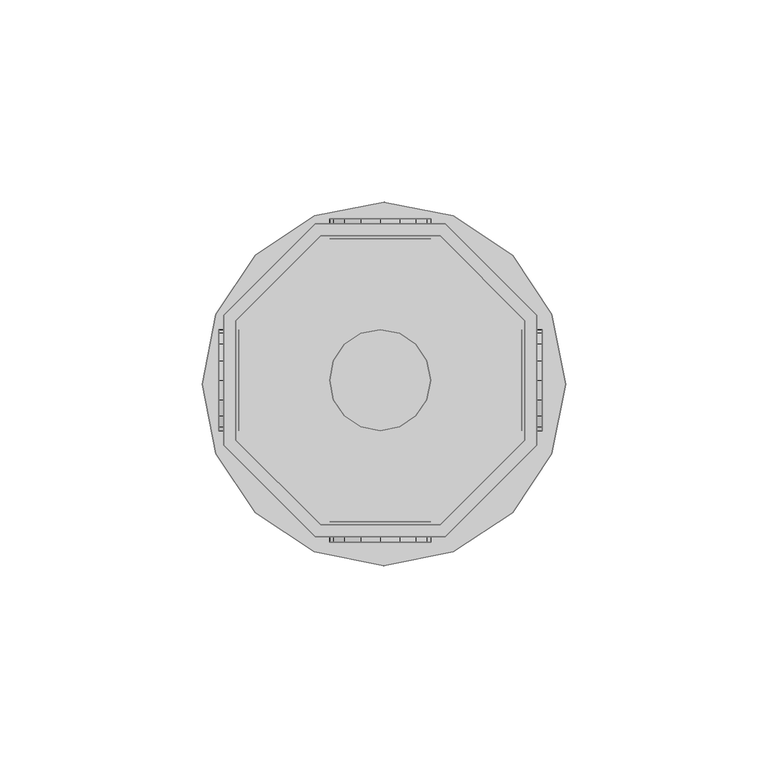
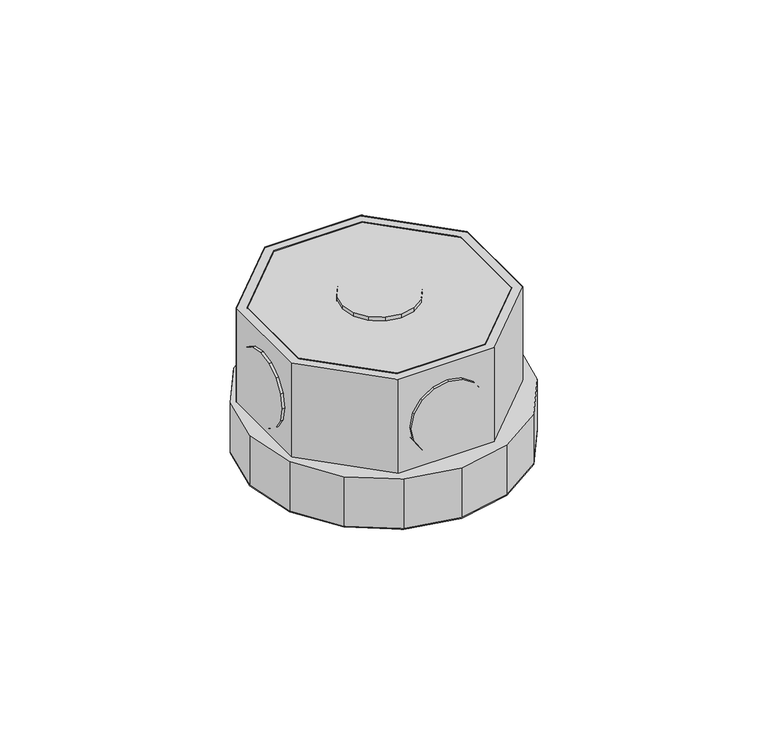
"""IFC4 building model written with IfcOpenShell, lengths in millimetres: light fixture geometry,  213200 :  213200."""

import ifcopenshell
import ifcopenshell.guid

model = None  # the IFC model being written
_history = None  # IfcOwnerHistory: only IFC2X3 demands one
_inside = {}  # id of a spatial element -> (the spatial element, [elements in it])
_under = {}  # id of a project, library or spatial element -> (it, [spatial elements below it])
_declared = {}  # id of a project -> (the project, [libraries it declares])
_typed = {}  # id of a type object -> (the type object, [elements of that type])
_made_of = {}  # id of a material, layer set ... -> (it, [elements and type objects made of it])


def new_model(schema):
    """Start an empty IFC model of exactly this schema.

    Asked for "IFC4X3", IfcOpenShell would pick the latest addendum, in which some entities
    have other attributes; the version numbers below select the first issue.
    IFC2X3 requires an IfcOwnerHistory on every rooted entity: one is made here for all.
    """
    global model, _history
    if schema == "IFC4X3":
        model = ifcopenshell.file(schema_version=(4, 3, 0, 0))
    else:
        model = ifcopenshell.file(schema=schema)
    _inside.clear()
    _under.clear()
    _declared.clear()
    _typed.clear()
    _made_of.clear()
    _history = None
    if model.schema == "IFC2X3":
        org = make("IfcOrganization", Name="unknown")
        user = make(
            "IfcPersonAndOrganization",
            ThePerson=make("IfcPerson", FamilyName="unknown"),
            TheOrganization=org,
        )
        app = make(
            "IfcApplication",
            ApplicationDeveloper=org,
            Version="unknown",
            ApplicationFullName="unknown",
            ApplicationIdentifier="unknown",
        )
        _history = make(
            "IfcOwnerHistory",
            OwningUser=user,
            OwningApplication=app,
            ChangeAction="ADDED",
            CreationDate=0,
        )
    return model


def make(cls, **values):
    """One entity of the class cls with the attributes given. An attribute that is None is left unset."""
    return model.create_entity(
        cls, **{name: value for name, value in values.items() if value is not None}
    )


def rooted(cls, **values):
    """An entity with a GlobalId (a new one), such as an element, a storey or a relation."""
    return make(cls, GlobalId=ifcopenshell.guid.new(), OwnerHistory=_history, **values)


def si_unit(unit_type, name, prefix=None):
    """IfcSIUnit, for example si_unit("LENGTHUNIT", "METRE", prefix="MILLI")."""
    return make("IfcSIUnit", UnitType=unit_type, Prefix=prefix, Name=name)


def assignment(units):
    """IfcUnitAssignment: the units of a project."""
    return None if units is None else make("IfcUnitAssignment", Units=units)


def point(xyz):
    """IfcCartesianPoint."""
    return None if xyz is None else make("IfcCartesianPoint", Coordinates=xyz)


def direction(xyz):
    """IfcDirection."""
    return None if xyz is None else make("IfcDirection", DirectionRatios=xyz)


def frame(location, z_axis=None, x_axis=None):
    """IfcAxis2Placement3D, a coordinate frame: its origin and axes. An axis left out is left unset."""
    return make(
        "IfcAxis2Placement3D",
        Location=point(location),
        Axis=direction(z_axis),
        RefDirection=direction(x_axis),
    )


def origin():
    """The frame at (0, 0, 0) with its axes left unset."""
    return frame((0.0, 0.0, 0.0))


def place(relative_to, where):
    """IfcLocalPlacement: puts the frame where relative to a parent placement (None: the world)."""
    return make(
        "IfcLocalPlacement", PlacementRelTo=relative_to, RelativePlacement=where
    )


def context(
    kind, dimensions, precision=None, world=None, true_north=None, identifier=None
):
    """IfcGeometricRepresentationContext, for example the 3D "Model" context."""
    return make(
        "IfcGeometricRepresentationContext",
        ContextIdentifier=identifier,
        ContextType=kind,
        CoordinateSpaceDimension=dimensions,
        Precision=precision,
        WorldCoordinateSystem=world,
        TrueNorth=true_north,
    )


def project(units=None, contexts=None):
    """IfcProject with its units and contexts."""
    return rooted(
        "IfcProject",
        Name="project",
        RepresentationContexts=contexts,
        UnitsInContext=assignment(units),
    )


def spatial(cls, under=None, at=None, **own):
    """A site, building, storey or space (cls), placed at a placement, below another one or the project."""
    s = rooted(cls, ObjectPlacement=at, **own)
    if under is not None:
        _under.setdefault(under.id(), (under, []))[1].append(s)
    return s


def point_list(points):
    """IfcCartesianPointList2D or 3D."""
    cls = (
        "IfcCartesianPointList2D" if len(points[0]) == 2 else "IfcCartesianPointList3D"
    )
    return make(cls, CoordList=points)


def triangles(points, corners, closed=None, point_numbers=None):
    """IfcTriangulatedFaceSet: each triangle names its three corners, points numbered from 1."""
    return make(
        "IfcTriangulatedFaceSet",
        Coordinates=point_list(points),
        Closed=closed,
        CoordIndex=corners,
        PnIndex=point_numbers,
    )


def shape(context_of_items, identifier, shape_type, items):
    """IfcShapeRepresentation: the items that make up one representation, for example the "Body"."""
    return make(
        "IfcShapeRepresentation",
        ContextOfItems=context_of_items,
        RepresentationIdentifier=identifier,
        RepresentationType=shape_type,
        Items=items,
    )


def source(mapping_origin, context_of_items, identifier, shape_type, items):
    """IfcRepresentationMap: a shape defined once, which mapped items show again and again."""
    return make(
        "IfcRepresentationMap",
        MappingOrigin=mapping_origin,
        MappedRepresentation=shape(context_of_items, identifier, shape_type, items),
    )


def transform(
    local_origin,
    x_axis=None,
    y_axis=None,
    z_axis=None,
    scale=None,
    scale2=None,
    scale3=None,
    uniform=True,
):
    """IfcCartesianTransformationOperator3D, or its non-uniform kind. x_axis, y_axis, z_axis: its Axis1, 2, 3."""
    if uniform:
        return make(
            "IfcCartesianTransformationOperator3D",
            Axis1=direction(x_axis),
            Axis2=direction(y_axis),
            LocalOrigin=point(local_origin),
            Scale=scale,
            Axis3=direction(z_axis),
        )
    return make(
        "IfcCartesianTransformationOperator3DnonUniform",
        Axis1=direction(x_axis),
        Axis2=direction(y_axis),
        LocalOrigin=point(local_origin),
        Scale=scale,
        Axis3=direction(z_axis),
        Scale2=scale2,
        Scale3=scale3,
    )


def mapped(mapping_source, mapping_target):
    """IfcMappedItem: shows the shape of a source again, moved by a transform."""
    return make(
        "IfcMappedItem", MappingSource=mapping_source, MappingTarget=mapping_target
    )


def made_of(thing, what):
    """Note that an element or type object is made of a material, layer set ...; save() writes the relation."""
    if what is not None:
        _made_of.setdefault(what.id(), (what, []))[1].append(thing)
    return thing


def element(
    cls,
    number,
    at=None,
    inside=None,
    cuts=None,
    type_object=None,
    material=None,
    context=None,
    identifier="Body",
    shape_type=None,
    held_by="IfcProductDefinitionShape",
    body=None,
    shapes=None,
    **own,
):
    """One element of the class cls, such as IfcWall. Its Tag is "e" and its number.

    at: its placement. inside: the storey or other place that contains it. cuts: it is an
    opening in that element (IfcRelVoidsElement). A single representation is given by context,
    identifier, shape_type and body (its items); several are given by shapes. held_by: the class
    of the entity that holds the representations. save() writes the other relations.
    """
    e = rooted(cls, Tag="e%d" % number, ObjectPlacement=at, **own)
    if body is not None:
        shapes = [shape(context, identifier, shape_type, body)]
    if shapes is not None:
        e.Representation = make(held_by, Representations=shapes)
    if inside is not None:
        _inside.setdefault(inside.id(), (inside, []))[1].append(e)
    if cuts is not None:
        rooted(
            "IfcRelVoidsElement", RelatingBuildingElement=cuts, RelatedOpeningElement=e
        )
    if type_object is not None:
        _typed.setdefault(type_object.id(), (type_object, []))[1].append(e)
    return made_of(e, material)


def aggregate(whole, parts):
    """IfcRelAggregates: a whole, such as a stair, and the parts it consists of."""
    return rooted("IfcRelAggregates", RelatingObject=whole, RelatedObjects=parts)


def save(model, path):
    """Write the relations noted so far, then the file.

    IfcRelAggregates (storeys below a building ...), IfcRelContainedInSpatialStructure (elements
    in a storey), IfcRelDefinesByType, IfcRelAssociatesMaterial and IfcRelDeclares: one each for
    every whole, place, type object, material and project.
    """
    for whole, parts in _under.values():
        aggregate(whole, parts)
    for where, things in _inside.values():
        rooted(
            "IfcRelContainedInSpatialStructure",
            RelatedElements=things,
            RelatingStructure=where,
        )
    for kind, things in _typed.values():
        rooted("IfcRelDefinesByType", RelatedObjects=things, RelatingType=kind)
    for what, things in _made_of.values():
        rooted("IfcRelAssociatesMaterial", RelatedObjects=things, RelatingMaterial=what)
    for by, libraries in _declared.values():
        rooted("IfcRelDeclares", RelatingContext=by, RelatedDefinitions=libraries)
    model.write(path)


def light_fixture_d457a72d(model_context):
    return source(origin(), model_context, "Body", "Tessellation", [
        triangles([(24957.4998779, 16550.5002411, 2924.5999741), (24927.8993591, 16550.5002411, 2975.400071), (24927.8993591, 16550.5002411, 2924.5999741), (24957.4998779, 16550.5002411, 2975.400071), (24958.6998047, 16476.0001373, 2924.5999741), (24926.5994385, 16476.0001373, 2975.400071), (24926.5994385, 16476.0001373, 2924.5999741), (24958.6998047, 16476.0001373, 2975.400071), (24906.9006409, 16529.5003601, 2975.400071), (24906.9006409, 16529.5003601, 2924.5999741), (24981.4007446, 16498.6999146, 2924.5999741), (24981.4007446, 16498.6999146, 2975.400071), (24906.9006409, 16499.8998413, 2975.400071), (24906.9006409, 16499.8998413, 2924.5999741), (24981.4007446, 16530.8002808, 2924.5999741), (24981.4007446, 16530.8002808, 2975.400071), (24927.8993591, 16478.9999542, 2975.400071), (24927.8993591, 16478.9999542, 2924.5999741), (24958.6998047, 16553.500058, 2924.5999741), (24958.6998047, 16553.500058, 2975.400071), (24957.4998779, 16478.9999542, 2924.5999741), (24957.4998779, 16478.9999542, 2975.400071), (24926.5994385, 16553.500058, 2975.400071), (24926.5994385, 16553.500058, 2924.5999741), (24978.4009277, 16499.8998413, 2924.5999741), (24978.4009277, 16499.8998413, 2975.400071), (24903.900824, 16530.8002808, 2975.400071), (24903.900824, 16530.8002808, 2924.5999741), (24903.900824, 16498.6999146, 2975.400071), (24978.4009277, 16529.5003601, 2975.400071), (24978.4009277, 16529.5003601, 2924.5999741), (24903.900824, 16498.6999146, 2924.5999741), (24906.9006409, 16499.8998413, 2972.3999634), (24927.8993591, 16478.9999542, 2972.3999634), (24957.4998779, 16478.9999542, 2972.3999634), (24978.4009277, 16499.8998413, 2972.3999634), (24978.4009277, 16529.5003601, 2972.3999634), (24957.4998779, 16550.5002411, 2972.3999634), (24927.8993591, 16550.5002411, 2972.3999634), (24906.9006409, 16529.5003601, 2972.3999634), (24903.900824, 16530.8002808, 2942.4000504), (24926.5994385, 16553.500058, 2942.4000504), (24958.6998047, 16553.500058, 2942.4000504), (24981.4007446, 16530.8002808, 2942.4000504), (24981.4007446, 16498.6999146, 2942.4000504), (24958.6998047, 16476.0001373, 2942.4000504), (24926.5994385, 16476.0001373, 2942.4000504), (24903.900824, 16498.6999146, 2942.4000504), (24926.2994568, 16472.3003632, 2942.4000504), (24902.0009399, 16496.6000427, 2942.4000504), (24911.7003479, 16481.9997711, 2942.4000504), (24898.6011475, 16513.8001556, 2942.4000504), (24902.0009399, 16531.1002625, 2942.4000504), (24911.7003479, 16545.7005341, 2942.4000504), (24926.2994568, 16555.399942, 2942.4000504), (24943.6007263, 16558.7997345, 2942.4000504), (24960.7996765, 16555.399942, 2942.4000504), (24985.1005188, 16531.1002625, 2942.4000504), (24975.4011108, 16545.7005341, 2942.4000504), (24943.6007263, 16468.8005768, 2942.4000504), (24960.7996765, 16472.3003632, 2942.4000504), (24975.4011108, 16481.9997711, 2942.4000504), (24985.1005188, 16496.6000427, 2942.4000504), (24988.6003052, 16513.8001556, 2942.4000504), (24902.0009399, 16496.6000427, 2924.5999741), (24926.2994568, 16472.3003632, 2924.5999741), (24911.7003479, 16481.9997711, 2924.5999741), (24898.6011475, 16513.8001556, 2924.5999741), (24902.0009399, 16531.1002625, 2924.5999741), (24911.7003479, 16545.7005341, 2924.5999741), (24926.2994568, 16555.399942, 2924.5999741), (24943.6007263, 16558.7997345, 2924.5999741), (24960.7996765, 16555.399942, 2924.5999741), (24985.1005188, 16531.1002625, 2924.5999741), (24975.4011108, 16545.7005341, 2924.5999741), (24943.6007263, 16468.8005768, 2924.5999741), (24960.7996765, 16472.3003632, 2924.5999741), (24975.4011108, 16481.9997711, 2924.5999741), (24985.1005188, 16496.6000427, 2924.5999741), (24988.6003052, 16513.8001556, 2924.5999741), (24931.0991638, 16554.6999847, 2952.6000092), (24937.9010742, 16554.6999847, 2945.9001274), (24933.798999, 16554.6999847, 2948.5999626), (24930.1992188, 16554.6999847, 2957.4000069), (24942.7007813, 16554.6999847, 2944.8998978), (24931.0991638, 16554.6999847, 2962.2000046), (24947.5004883, 16554.6999847, 2945.9001274), (24933.798999, 16554.6999847, 2966.2000511), (24951.5002441, 16554.6999847, 2948.5999626), (24937.9010742, 16554.6999847, 2968.8998863), (24954.2000793, 16554.6999847, 2952.6000092), (24942.7007813, 16554.6999847, 2969.900116), (24955.2000183, 16554.6999847, 2957.4000069), (24947.5004883, 16554.6999847, 2968.8998863), (24954.2000793, 16554.6999847, 2962.2000046), (24951.5002441, 16554.6999847, 2966.2000511), (24937.9010742, 16549.7002899, 2945.9001274), (24931.0991638, 16549.7002899, 2952.6000092), (24933.798999, 16549.7002899, 2948.5999626), (24942.7007813, 16549.7002899, 2944.8998978), (24930.1992188, 16549.7002899, 2957.4000069), (24947.5004883, 16549.7002899, 2945.9001274), (24931.0991638, 16549.7002899, 2962.2000046), (24951.5002441, 16549.7002899, 2948.5999626), (24933.798999, 16549.7002899, 2966.2000511), (24937.9010742, 16549.7002899, 2968.8998863), (24954.2000793, 16549.7002899, 2952.6000092), (24942.7007813, 16549.7002899, 2969.900116), (24955.2000183, 16549.7002899, 2957.4000069), (24947.5004883, 16549.7002899, 2968.8998863), (24954.2000793, 16549.7002899, 2962.2000046), (24951.5002441, 16549.7002899, 2966.2000511), (24931.0991638, 16479.6999115, 2952.6000092), (24937.9010742, 16479.6999115, 2945.9001274), (24933.798999, 16479.6999115, 2948.5999626), (24930.1992188, 16479.6999115, 2957.4000069), (24942.7007813, 16479.6999115, 2944.8998978), (24931.0991638, 16479.6999115, 2962.2000046), (24947.5004883, 16479.6999115, 2945.9001274), (24933.798999, 16479.6999115, 2966.2000511), (24951.5002441, 16479.6999115, 2948.5999626), (24937.9010742, 16479.6999115, 2968.8998863), (24954.2000793, 16479.6999115, 2952.6000092), (24942.7007813, 16479.6999115, 2969.900116), (24955.2000183, 16479.6999115, 2957.4000069), (24947.5004883, 16479.6999115, 2968.8998863), (24954.2000793, 16479.6999115, 2962.2000046), (24951.5002441, 16479.6999115, 2966.2000511), (24937.9010742, 16474.7002167, 2945.9001274), (24931.0991638, 16474.7002167, 2952.6000092), (24933.798999, 16474.7002167, 2948.5999626), (24942.7007813, 16474.7002167, 2944.8998978), (24930.1992188, 16474.7002167, 2957.4000069), (24947.5004883, 16474.7002167, 2945.9001274), (24931.0991638, 16474.7002167, 2962.2000046), (24951.5002441, 16474.7002167, 2948.5999626), (24933.798999, 16474.7002167, 2966.2000511), (24937.9010742, 16474.7002167, 2968.8998863), (24954.2000793, 16474.7002167, 2952.6000092), (24942.7007813, 16474.7002167, 2969.900116), (24955.2000183, 16474.7002167, 2957.4000069), (24947.5004883, 16474.7002167, 2968.8998863), (24954.2000793, 16474.7002167, 2962.2000046), (24951.5002441, 16474.7002167, 2966.2000511), (24907.700592, 16509.9003937, 2945.9001274), (24907.700592, 16503.1996399, 2952.6000092), (24907.700592, 16505.8994751, 2948.5999626), (24907.700592, 16514.7001007, 2944.8998978), (24907.700592, 16502.1997009, 2957.4000069), (24907.700592, 16519.4998077, 2945.9001274), (24907.700592, 16503.1996399, 2962.2000046), (24907.700592, 16523.5995575, 2948.5999626), (24907.700592, 16505.8994751, 2966.2000511), (24907.700592, 16509.9003937, 2968.8998863), (24907.700592, 16526.3005554, 2952.6000092), (24907.700592, 16514.7001007, 2969.900116), (24907.700592, 16527.2005005, 2957.4000069), (24907.700592, 16519.4998077, 2968.8998863), (24907.700592, 16526.3005554, 2962.2000046), (24907.700592, 16523.5995575, 2966.2000511), (24902.7008972, 16503.1996399, 2952.6000092), (24902.7008972, 16509.9003937, 2945.9001274), (24902.7008972, 16505.8994751, 2948.5999626), (24902.7008972, 16502.1997009, 2957.4000069), (24902.7008972, 16514.7001007, 2944.8998978), (24902.7008972, 16503.1996399, 2962.2000046), (24902.7008972, 16519.4998077, 2945.9001274), (24902.7008972, 16505.8994751, 2966.2000511), (24902.7008972, 16523.5995575, 2948.5999626), (24902.7008972, 16509.9003937, 2968.8998863), (24902.7008972, 16526.3005554, 2952.6000092), (24902.7008972, 16514.7001007, 2969.900116), (24902.7008972, 16527.2005005, 2957.4000069), (24902.7008972, 16519.4998077, 2968.8998863), (24902.7008972, 16526.3005554, 2962.2000046), (24902.7008972, 16523.5995575, 2966.2000511), (24982.7006653, 16509.9003937, 2945.9001274), (24982.7006653, 16503.1996399, 2952.6000092), (24982.7006653, 16505.8994751, 2948.5999626), (24982.7006653, 16514.7001007, 2944.8998978), (24982.7006653, 16502.1997009, 2957.4000069), (24982.7006653, 16519.4998077, 2945.9001274), (24982.7006653, 16503.1996399, 2962.2000046), (24982.7006653, 16523.5995575, 2948.5999626), (24982.7006653, 16505.8994751, 2966.2000511), (24982.7006653, 16509.9003937, 2968.8998863), (24982.7006653, 16526.3005554, 2952.6000092), (24982.7006653, 16514.7001007, 2969.900116), (24982.7006653, 16527.2005005, 2957.4000069), (24982.7006653, 16519.4998077, 2968.8998863), (24982.7006653, 16526.3005554, 2962.2000046), (24982.7006653, 16523.5995575, 2966.2000511), (24977.7009705, 16503.1996399, 2952.6000092), (24977.7009705, 16509.9003937, 2945.9001274), (24977.7009705, 16505.8994751, 2948.5999626), (24977.7009705, 16502.1997009, 2957.4000069), (24977.7009705, 16514.7001007, 2944.8998978), (24977.7009705, 16503.1996399, 2962.2000046), (24977.7009705, 16519.4998077, 2945.9001274), (24977.7009705, 16505.8994751, 2966.2000511), (24977.7009705, 16523.5995575, 2948.5999626), (24977.7009705, 16509.9003937, 2968.8998863), (24977.7009705, 16526.3005554, 2952.6000092), (24977.7009705, 16514.7001007, 2969.900116), (24977.7009705, 16527.2005005, 2957.4000069), (24977.7009705, 16519.4998077, 2968.8998863), (24977.7009705, 16526.3005554, 2962.2000046), (24977.7009705, 16523.5995575, 2966.2000511), (24937.9010742, 16503.1996399, 2976.9999733), (24931.0991638, 16509.9003937, 2976.9999733), (24933.798999, 16505.8994751, 2976.9999733), (24930.1992188, 16514.7001007, 2976.9999733), (24942.7007813, 16502.1997009, 2976.9999733), (24931.0991638, 16519.4998077, 2976.9999733), (24947.5004883, 16503.1996399, 2976.9999733), (24933.798999, 16523.5995575, 2976.9999733), (24951.5002441, 16505.8994751, 2976.9999733), (24937.9010742, 16526.3005554, 2976.9999733), (24954.2000793, 16509.9003937, 2976.9999733), (24942.7007813, 16527.2005005, 2976.9999733), (24955.2000183, 16514.7001007, 2976.9999733), (24947.5004883, 16526.3005554, 2976.9999733), (24954.2000793, 16519.4998077, 2976.9999733), (24951.5002441, 16523.5995575, 2976.9999733), (24931.0991638, 16509.9003937, 2971.9999878), (24937.9010742, 16503.1996399, 2971.9999878), (24933.798999, 16505.8994751, 2971.9999878), (24930.1992188, 16514.7001007, 2971.9999878), (24942.7007813, 16502.1997009, 2971.9999878), (24931.0991638, 16519.4998077, 2971.9999878), (24947.5004883, 16503.1996399, 2971.9999878), (24933.798999, 16523.5995575, 2971.9999878), (24951.5002441, 16505.8994751, 2971.9999878), (24937.9010742, 16526.3005554, 2971.9999878), (24954.2000793, 16509.9003937, 2971.9999878), (24942.7007813, 16527.2005005, 2971.9999878), (24955.2000183, 16514.7001007, 2971.9999878), (24947.5004883, 16526.3005554, 2971.9999878), (24954.2000793, 16519.4998077, 2971.9999878), (24951.5002441, 16523.5995575, 2971.9999878)], [[1, 2, 3], [2, 1, 4], [5, 6, 7], [6, 5, 8], [3, 9, 10], [9, 3, 2], [11, 8, 5], [8, 11, 12], [10, 13, 14], [13, 10, 9], [15, 12, 11], [12, 15, 16], [14, 17, 18], [17, 14, 13], [19, 16, 15], [16, 19, 20], [17, 21, 18], [21, 17, 22], [23, 19, 24], [19, 23, 20], [22, 25, 21], [25, 22, 26], [27, 24, 28], [24, 27, 23], [6, 13, 29], [29, 13, 27], [27, 13, 9], [27, 9, 23], [23, 9, 2], [23, 2, 4], [23, 4, 20], [20, 4, 30], [8, 17, 6], [6, 17, 13], [17, 8, 22], [12, 22, 8], [22, 12, 26], [30, 26, 12], [16, 30, 12], [20, 30, 16], [30, 1, 31], [1, 30, 4], [6, 32, 7], [32, 6, 29], [32, 14, 7], [28, 14, 32], [14, 28, 10], [24, 10, 28], [10, 24, 3], [1, 3, 24], [19, 1, 24], [31, 1, 19], [7, 18, 5], [14, 18, 7], [5, 18, 21], [5, 21, 11], [11, 21, 25], [11, 25, 31], [11, 31, 15], [15, 31, 19], [26, 31, 25], [31, 26, 30], [29, 28, 32], [28, 29, 27], [17, 33, 34], [33, 17, 13], [35, 17, 34], [17, 35, 22], [36, 22, 35], [22, 36, 26], [37, 26, 36], [26, 37, 30], [38, 30, 37], [30, 38, 4], [2, 38, 39], [38, 2, 4], [17, 9, 13], [9, 17, 22], [9, 22, 2], [2, 22, 26], [2, 26, 4], [4, 26, 30], [13, 40, 33], [40, 13, 9], [40, 34, 33], [35, 34, 40], [35, 40, 39], [35, 39, 36], [36, 39, 38], [36, 38, 37], [9, 39, 40], [39, 9, 2], [24, 41, 28], [41, 24, 42], [19, 42, 24], [42, 19, 43], [44, 19, 15], [19, 44, 43], [45, 15, 11], [15, 45, 44], [46, 11, 5], [11, 46, 45], [47, 5, 7], [5, 47, 46], [32, 47, 7], [47, 32, 48], [28, 48, 32], [48, 28, 41], [49, 50, 51], [48, 50, 49], [50, 48, 52], [41, 52, 48], [52, 41, 53], [53, 41, 54], [42, 54, 41], [54, 42, 55], [55, 42, 43], [55, 43, 56], [56, 43, 57], [57, 43, 44], [57, 44, 58], [57, 58, 59], [47, 49, 60], [49, 47, 48], [47, 60, 46], [61, 46, 60], [46, 61, 62], [46, 62, 45], [45, 62, 63], [44, 45, 63], [44, 63, 64], [44, 64, 58], [65, 66, 67], [66, 65, 32], [68, 32, 65], [32, 68, 28], [28, 68, 69], [70, 28, 69], [28, 70, 24], [71, 24, 70], [19, 24, 71], [19, 71, 72], [73, 19, 72], [19, 73, 15], [74, 15, 73], [74, 73, 75], [76, 66, 7], [32, 7, 66], [5, 76, 7], [76, 5, 77], [77, 5, 78], [11, 78, 5], [78, 11, 79], [79, 11, 15], [79, 15, 80], [80, 15, 74], [57, 75, 73], [75, 57, 59], [56, 73, 72], [73, 56, 57], [55, 72, 71], [72, 55, 56], [54, 71, 70], [71, 54, 55], [53, 70, 69], [70, 53, 54], [52, 69, 68], [69, 52, 53], [50, 68, 65], [68, 50, 52], [51, 65, 67], [65, 51, 50], [66, 51, 67], [51, 66, 49], [76, 49, 66], [49, 76, 60], [77, 60, 76], [60, 77, 61], [78, 61, 77], [61, 78, 62], [79, 62, 78], [62, 79, 63], [80, 63, 79], [63, 80, 64], [75, 58, 74], [58, 75, 59], [74, 64, 80], [64, 74, 58], [81, 82, 83], [82, 81, 84], [85, 82, 84], [85, 84, 86], [87, 85, 86], [87, 86, 88], [87, 88, 89], [89, 88, 90], [89, 90, 91], [91, 90, 92], [91, 92, 93], [93, 92, 94], [93, 94, 95], [95, 94, 96], [97, 98, 99], [98, 97, 100], [101, 98, 100], [101, 100, 102], [103, 101, 102], [103, 102, 104], [103, 104, 105], [105, 104, 106], [106, 104, 107], [106, 107, 108], [108, 107, 109], [108, 109, 110], [110, 109, 111], [110, 111, 112], [87, 104, 102], [104, 87, 89], [85, 102, 100], [102, 85, 87], [82, 100, 97], [100, 82, 85], [83, 97, 99], [97, 83, 82], [98, 83, 99], [83, 98, 81], [101, 81, 98], [81, 101, 84], [103, 84, 101], [84, 103, 86], [105, 86, 103], [86, 105, 88], [106, 88, 105], [88, 106, 90], [108, 90, 106], [90, 108, 92], [110, 92, 108], [92, 110, 94], [112, 94, 110], [94, 112, 96], [95, 112, 111], [112, 95, 96], [93, 111, 109], [111, 93, 95], [89, 107, 104], [107, 89, 91], [91, 109, 107], [109, 91, 93], [113, 114, 115], [114, 113, 116], [117, 114, 116], [117, 116, 118], [119, 117, 118], [119, 118, 120], [119, 120, 121], [121, 120, 122], [121, 122, 123], [123, 122, 124], [123, 124, 125], [125, 124, 126], [125, 126, 127], [127, 126, 128], [129, 130, 131], [130, 129, 132], [133, 130, 132], [133, 132, 134], [135, 133, 134], [135, 134, 136], [135, 136, 137], [137, 136, 138], [138, 136, 139], [138, 139, 140], [140, 139, 141], [140, 141, 142], [142, 141, 143], [142, 143, 144], [119, 136, 134], [136, 119, 121], [117, 134, 132], [134, 117, 119], [114, 132, 129], [132, 114, 117], [115, 129, 131], [129, 115, 114], [130, 115, 131], [115, 130, 113], [133, 113, 130], [113, 133, 116], [135, 116, 133], [116, 135, 118], [137, 118, 135], [118, 137, 120], [138, 120, 137], [120, 138, 122], [140, 122, 138], [122, 140, 124], [142, 124, 140], [124, 142, 126], [144, 126, 142], [126, 144, 128], [127, 144, 143], [144, 127, 128], [125, 143, 141], [143, 125, 127], [121, 139, 136], [139, 121, 123], [123, 141, 139], [141, 123, 125], [145, 146, 147], [146, 145, 148], [149, 146, 148], [149, 148, 150], [151, 149, 150], [151, 150, 152], [151, 152, 153], [153, 152, 154], [154, 152, 155], [154, 155, 156], [156, 155, 157], [156, 157, 158], [158, 157, 159], [158, 159, 160], [161, 162, 163], [162, 161, 164], [165, 162, 164], [165, 164, 166], [167, 165, 166], [167, 166, 168], [169, 167, 168], [169, 168, 170], [169, 170, 171], [171, 170, 172], [171, 172, 173], [173, 172, 174], [173, 174, 175], [175, 174, 176], [158, 176, 174], [176, 158, 160], [156, 174, 172], [174, 156, 158], [154, 172, 170], [172, 154, 156], [153, 170, 168], [170, 153, 154], [151, 168, 166], [168, 151, 153], [149, 166, 164], [166, 149, 151], [146, 164, 161], [164, 146, 149], [147, 161, 163], [161, 147, 146], [162, 147, 163], [147, 162, 145], [165, 145, 162], [145, 165, 148], [167, 148, 165], [148, 167, 150], [169, 150, 167], [150, 169, 152], [171, 152, 169], [152, 171, 155], [173, 155, 171], [155, 173, 157], [176, 159, 175], [159, 176, 160], [175, 157, 173], [157, 175, 159], [177, 178, 179], [178, 177, 180], [181, 178, 180], [181, 180, 182], [183, 181, 182], [183, 182, 184], [183, 184, 185], [185, 184, 186], [186, 184, 187], [186, 187, 188], [188, 187, 189], [188, 189, 190], [190, 189, 191], [190, 191, 192], [193, 194, 195], [194, 193, 196], [197, 194, 196], [197, 196, 198], [199, 197, 198], [199, 198, 200], [201, 199, 200], [201, 200, 202], [201, 202, 203], [203, 202, 204], [203, 204, 205], [205, 204, 206], [205, 206, 207], [207, 206, 208], [190, 208, 206], [208, 190, 192], [188, 206, 204], [206, 188, 190], [186, 204, 202], [204, 186, 188], [185, 202, 200], [202, 185, 186], [183, 200, 198], [200, 183, 185], [181, 198, 196], [198, 181, 183], [178, 196, 193], [196, 178, 181], [179, 193, 195], [193, 179, 178], [194, 179, 195], [179, 194, 177], [197, 177, 194], [177, 197, 180], [199, 180, 197], [180, 199, 182], [201, 182, 199], [182, 201, 184], [203, 184, 201], [184, 203, 187], [205, 187, 203], [187, 205, 189], [208, 191, 207], [191, 208, 192], [207, 189, 205], [189, 207, 191], [209, 210, 211], [212, 210, 209], [212, 209, 213], [214, 212, 213], [214, 213, 215], [216, 214, 215], [216, 215, 217], [216, 217, 218], [218, 217, 219], [218, 219, 220], [220, 219, 221], [220, 221, 222], [222, 221, 223], [222, 223, 224], [225, 226, 227], [226, 225, 228], [229, 226, 228], [229, 228, 230], [231, 229, 230], [231, 230, 232], [231, 232, 233], [233, 232, 234], [233, 234, 235], [235, 234, 236], [235, 236, 237], [237, 236, 238], [237, 238, 239], [239, 238, 240], [222, 240, 238], [240, 222, 224], [220, 238, 236], [238, 220, 222], [218, 236, 234], [236, 218, 220], [216, 234, 232], [234, 216, 218], [214, 232, 230], [232, 214, 216], [212, 230, 228], [230, 212, 214], [210, 228, 225], [228, 210, 212], [211, 225, 227], [225, 211, 210], [226, 211, 227], [211, 226, 209], [229, 209, 226], [209, 229, 213], [231, 213, 229], [213, 231, 215], [233, 215, 231], [215, 233, 217], [235, 217, 233], [217, 235, 219], [237, 219, 235], [219, 237, 221], [240, 223, 239], [223, 240, 224], [239, 221, 237], [221, 239, 223]], closed=False),
    ])


if __name__ == "__main__":
    model = new_model("IFC4")
    model_context = context("Model", 3, world=origin())
    ifc_project = project(units=[si_unit("LENGTHUNIT", "METRE", prefix="MILLI")], contexts=[model_context])
    site = spatial("IfcSite", under=ifc_project)
    building = spatial("IfcBuilding", under=site)
    placement = place(None, origin())
    light_fixture_shape = light_fixture_d457a72d(model_context)
    element("IfcLightFixture", 1, ObjectType=" 213200 :  213200", at=placement, inside=building, context=model_context, shape_type="MappedRepresentation", body=[
        mapped(light_fixture_shape, transform((0.0, 0.0, 0.0), x_axis=(1.0, 0.0, 0.0), y_axis=(0.0, 1.0, 0.0), z_axis=(0.0, 0.0, 1.0))),
    ])
    save(model, "model.ifc")
